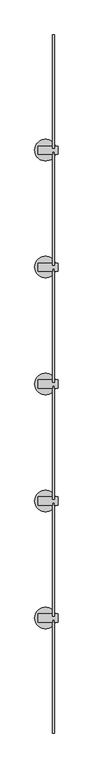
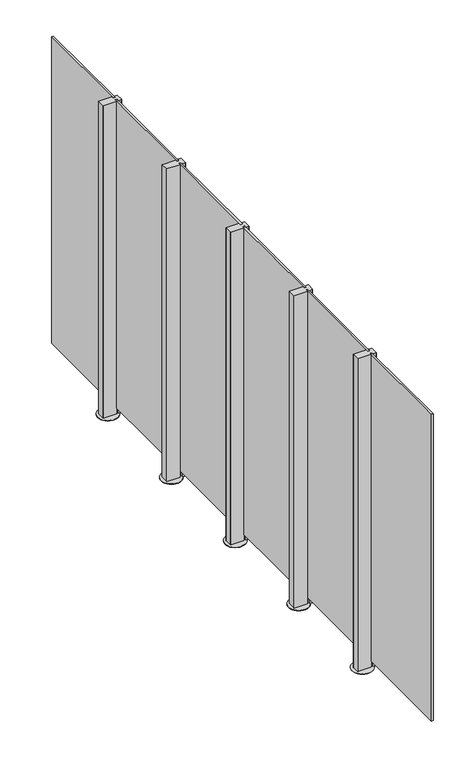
"""IFC4 building model written with IfcOpenShell, lengths in millimetres: railing geometry, TOP CONCRETE CORE_TOP MOUNT STRUC_GLASS_8'."""

from ifc_helpers import new_model, si_unit, point, frame, frame_2d, origin, origin_with_axes, place, context, project, spatial, polyline, circle_curve, trimmed, segment, composite_curve, outline, extrude, source, transform, mapped, element, save


def railing_ac6307d7(model_context):
    return source(origin(), model_context, "Body", "SweptSolid", [
        extrude(outline(polyline([(93873.3101265, -65347.9903244), (93873.3101265, -64560.5903244), (93886.0101265, -64560.5903244), (93886.0101265, -65347.9903244), (93873.3101265, -65347.9903244)])), frame((0.0, 0.0, 50.8), z_axis=(0.0, 0.0, 1.0), x_axis=(1.0, 0.0, 0.0)), (0.0, 0.0, 1.0), 2387.6),
        extrude(outline(composite_curve([segment(trimmed(circle_curve(frame_2d((93825.2862968, -65360.6903244)), 75.6503116), [point((93900.9366084, -65360.6903244))], [point((93749.6359852, -65360.6903244))], False, "CARTESIAN"), True, "CONTINUOUS"), segment(trimmed(circle_curve(frame_2d((93825.2862968, -65360.6903244)), 75.6503116), [point((93749.6359852, -65360.6903244))], [point((93900.9366084, -65360.6903244))], False, "CARTESIAN"), True, "CONTINUOUS")], self_intersect=False)), origin_with_axes(), (0.0, 0.0, 1.0), 3.0),
        extrude(outline(composite_curve([segment(polyline([(93873.3101265, -65332.9019775), (93873.3101265, -65347.9903244), (93886.0101265, -65347.9903244), (93886.0101265, -65332.9019775), (93910.9099695, -65332.9019775)]), True, "CONTINUOUS"), segment(trimmed(circle_curve(frame_2d((93910.9099695, -65333.4019775)), 0.5), [point((93910.9099695, -65332.9019775))], [point((93911.4099695, -65333.4019775))], False, "CARTESIAN"), True, "CONTINUOUS"), segment(polyline([(93911.4099695, -65333.4019775), (93911.4099695, -65389.5519775)]), True, "CONTINUOUS"), segment(trimmed(circle_curve(frame_2d((93910.9099695, -65389.5519775)), 0.5), [point((93911.4099695, -65389.5519775))], [point((93910.9099695, -65390.0519775))], False, "CARTESIAN"), True, "CONTINUOUS"), segment(polyline([(93910.9099695, -65390.0519775), (93886.0101265, -65390.0519775), (93886.0101265, -65373.3903244), (93873.3101265, -65373.3903244), (93873.3101265, -65390.0519775), (93774.2859695, -65390.0519775)]), True, "CONTINUOUS"), segment(trimmed(circle_curve(frame_2d((93774.2859695, -65389.5519775)), 0.5), [point((93774.2859695, -65390.0519775))], [point((93773.7859695, -65389.5519775))], False, "CARTESIAN"), True, "CONTINUOUS"), segment(polyline([(93773.7859695, -65389.5519775), (93773.7859695, -65333.4019775)]), True, "CONTINUOUS"), segment(trimmed(circle_curve(frame_2d((93774.2859695, -65333.4019775)), 0.5), [point((93773.7859695, -65333.4019775))], [point((93774.2859695, -65332.9019775))], False, "CARTESIAN"), True, "CONTINUOUS"), segment(polyline([(93774.2859695, -65332.9019775), (93873.3101265, -65332.9019775)]), True, "CONTINUOUS")], self_intersect=False)), origin_with_axes(), (0.0, 0.0, 1.0), 2438.4),
        extrude(outline(polyline([(93873.3101265, -66160.7903244), (93873.3101265, -65373.3903244), (93886.0101265, -65373.3903244), (93886.0101265, -66160.7903244), (93873.3101265, -66160.7903244)])), frame((0.0, 0.0, 50.8), z_axis=(0.0, 0.0, 1.0), x_axis=(1.0, 0.0, 0.0)), (0.0, 0.0, 1.0), 2387.6),
        extrude(outline(composite_curve([segment(trimmed(circle_curve(frame_2d((93825.2862968, -66173.4903244)), 75.6503116), [point((93900.9366084, -66173.4903244))], [point((93749.6359852, -66173.4903244))], False, "CARTESIAN"), True, "CONTINUOUS"), segment(trimmed(circle_curve(frame_2d((93825.2862968, -66173.4903244)), 75.6503116), [point((93749.6359852, -66173.4903244))], [point((93900.9366084, -66173.4903244))], False, "CARTESIAN"), True, "CONTINUOUS")], self_intersect=False)), origin_with_axes(), (0.0, 0.0, 1.0), 3.0),
        extrude(outline(composite_curve([segment(polyline([(93873.3101265, -66145.7019775), (93873.3101265, -66160.7903244), (93886.0101265, -66160.7903244), (93886.0101265, -66145.7019775), (93910.9099695, -66145.7019775)]), True, "CONTINUOUS"), segment(trimmed(circle_curve(frame_2d((93910.9099695, -66146.2019775)), 0.5), [point((93910.9099695, -66145.7019775))], [point((93911.4099695, -66146.2019775))], False, "CARTESIAN"), True, "CONTINUOUS"), segment(polyline([(93911.4099695, -66146.2019775), (93911.4099695, -66202.3519775)]), True, "CONTINUOUS"), segment(trimmed(circle_curve(frame_2d((93910.9099695, -66202.3519775)), 0.5), [point((93911.4099695, -66202.3519775))], [point((93910.9099695, -66202.8519775))], False, "CARTESIAN"), True, "CONTINUOUS"), segment(polyline([(93910.9099695, -66202.8519775), (93886.0101265, -66202.8519775), (93886.0101265, -66186.1903244), (93873.3101265, -66186.1903244), (93873.3101265, -66202.8519775), (93774.2859695, -66202.8519775)]), True, "CONTINUOUS"), segment(trimmed(circle_curve(frame_2d((93774.2859695, -66202.3519775)), 0.5), [point((93774.2859695, -66202.8519775))], [point((93773.7859695, -66202.3519775))], False, "CARTESIAN"), True, "CONTINUOUS"), segment(polyline([(93773.7859695, -66202.3519775), (93773.7859695, -66146.2019775)]), True, "CONTINUOUS"), segment(trimmed(circle_curve(frame_2d((93774.2859695, -66146.2019775)), 0.5), [point((93773.7859695, -66146.2019775))], [point((93774.2859695, -66145.7019775))], False, "CARTESIAN"), True, "CONTINUOUS"), segment(polyline([(93774.2859695, -66145.7019775), (93873.3101265, -66145.7019775)]), True, "CONTINUOUS")], self_intersect=False)), origin_with_axes(), (0.0, 0.0, 1.0), 2438.4),
        extrude(outline(polyline([(93873.3101265, -66973.5903244), (93873.3101265, -66186.1903244), (93886.0101265, -66186.1903244), (93886.0101265, -66973.5903244), (93873.3101265, -66973.5903244)])), frame((0.0, 0.0, 50.8), z_axis=(0.0, 0.0, 1.0), x_axis=(1.0, 0.0, 0.0)), (0.0, 0.0, 1.0), 2387.6),
        extrude(outline(composite_curve([segment(trimmed(circle_curve(frame_2d((93825.2862968, -66986.2903244)), 75.6503116), [point((93900.9366084, -66986.2903244))], [point((93749.6359852, -66986.2903244))], False, "CARTESIAN"), True, "CONTINUOUS"), segment(trimmed(circle_curve(frame_2d((93825.2862968, -66986.2903244)), 75.6503116), [point((93749.6359852, -66986.2903244))], [point((93900.9366084, -66986.2903244))], False, "CARTESIAN"), True, "CONTINUOUS")], self_intersect=False)), origin_with_axes(), (0.0, 0.0, 1.0), 3.0),
        extrude(outline(composite_curve([segment(polyline([(93873.3101265, -66958.5019775), (93873.3101265, -66973.5903244), (93886.0101265, -66973.5903244), (93886.0101265, -66958.5019775), (93910.9099695, -66958.5019775)]), True, "CONTINUOUS"), segment(trimmed(circle_curve(frame_2d((93910.9099695, -66959.0019775)), 0.5), [point((93910.9099695, -66958.5019775))], [point((93911.4099695, -66959.0019775))], False, "CARTESIAN"), True, "CONTINUOUS"), segment(polyline([(93911.4099695, -66959.0019775), (93911.4099695, -67015.1519775)]), True, "CONTINUOUS"), segment(trimmed(circle_curve(frame_2d((93910.9099695, -67015.1519775)), 0.5), [point((93911.4099695, -67015.1519775))], [point((93910.9099695, -67015.6519775))], False, "CARTESIAN"), True, "CONTINUOUS"), segment(polyline([(93910.9099695, -67015.6519775), (93886.0101265, -67015.6519775), (93886.0101265, -66998.9903244), (93873.3101265, -66998.9903244), (93873.3101265, -67015.6519775), (93774.2859695, -67015.6519775)]), True, "CONTINUOUS"), segment(trimmed(circle_curve(frame_2d((93774.2859695, -67015.1519775)), 0.5), [point((93774.2859695, -67015.6519775))], [point((93773.7859695, -67015.1519775))], False, "CARTESIAN"), True, "CONTINUOUS"), segment(polyline([(93773.7859695, -67015.1519775), (93773.7859695, -66959.0019775)]), True, "CONTINUOUS"), segment(trimmed(circle_curve(frame_2d((93774.2859695, -66959.0019775)), 0.5), [point((93773.7859695, -66959.0019775))], [point((93774.2859695, -66958.5019775))], False, "CARTESIAN"), True, "CONTINUOUS"), segment(polyline([(93774.2859695, -66958.5019775), (93873.3101265, -66958.5019775)]), True, "CONTINUOUS")], self_intersect=False)), origin_with_axes(), (0.0, 0.0, 1.0), 2438.4),
        extrude(outline(polyline([(93873.3101265, -67786.3903244), (93873.3101265, -66998.9903244), (93886.0101265, -66998.9903244), (93886.0101265, -67786.3903244), (93873.3101265, -67786.3903244)])), frame((0.0, 0.0, 50.8), z_axis=(0.0, 0.0, 1.0), x_axis=(1.0, 0.0, 0.0)), (0.0, 0.0, 1.0), 2387.6),
        extrude(outline(composite_curve([segment(trimmed(circle_curve(frame_2d((93825.2862968, -67799.0903244)), 75.6503116), [point((93900.9366084, -67799.0903244))], [point((93749.6359852, -67799.0903244))], False, "CARTESIAN"), True, "CONTINUOUS"), segment(trimmed(circle_curve(frame_2d((93825.2862968, -67799.0903244)), 75.6503116), [point((93749.6359852, -67799.0903244))], [point((93900.9366084, -67799.0903244))], False, "CARTESIAN"), True, "CONTINUOUS")], self_intersect=False)), origin_with_axes(), (0.0, 0.0, 1.0), 3.0),
        extrude(outline(composite_curve([segment(polyline([(93873.3101265, -67771.3019775), (93873.3101265, -67786.3903244), (93886.0101265, -67786.3903244), (93886.0101265, -67771.3019775), (93910.9099695, -67771.3019775)]), True, "CONTINUOUS"), segment(trimmed(circle_curve(frame_2d((93910.9099695, -67771.8019775)), 0.5), [point((93910.9099695, -67771.3019775))], [point((93911.4099695, -67771.8019775))], False, "CARTESIAN"), True, "CONTINUOUS"), segment(polyline([(93911.4099695, -67771.8019775), (93911.4099695, -67827.9519775)]), True, "CONTINUOUS"), segment(trimmed(circle_curve(frame_2d((93910.9099695, -67827.9519775)), 0.5), [point((93911.4099695, -67827.9519775))], [point((93910.9099695, -67828.4519775))], False, "CARTESIAN"), True, "CONTINUOUS"), segment(polyline([(93910.9099695, -67828.4519775), (93886.0101265, -67828.4519775), (93886.0101265, -67811.7903244), (93873.3101265, -67811.7903244), (93873.3101265, -67828.4519775), (93774.2859695, -67828.4519775)]), True, "CONTINUOUS"), segment(trimmed(circle_curve(frame_2d((93774.2859695, -67827.9519775)), 0.5), [point((93774.2859695, -67828.4519775))], [point((93773.7859695, -67827.9519775))], False, "CARTESIAN"), True, "CONTINUOUS"), segment(polyline([(93773.7859695, -67827.9519775), (93773.7859695, -67771.8019775)]), True, "CONTINUOUS"), segment(trimmed(circle_curve(frame_2d((93774.2859695, -67771.8019775)), 0.5), [point((93773.7859695, -67771.8019775))], [point((93774.2859695, -67771.3019775))], False, "CARTESIAN"), True, "CONTINUOUS"), segment(polyline([(93774.2859695, -67771.3019775), (93873.3101265, -67771.3019775)]), True, "CONTINUOUS")], self_intersect=False)), origin_with_axes(), (0.0, 0.0, 1.0), 2438.4),
        extrude(outline(polyline([(93873.3101265, -68599.1903244), (93873.3101265, -67811.7903244), (93886.0101265, -67811.7903244), (93886.0101265, -68599.1903244), (93873.3101265, -68599.1903244)])), frame((0.0, 0.0, 50.8), z_axis=(0.0, 0.0, 1.0), x_axis=(1.0, 0.0, 0.0)), (0.0, 0.0, 1.0), 2387.6),
        extrude(outline(composite_curve([segment(trimmed(circle_curve(frame_2d((93825.2862968, -68611.8903244)), 75.6503116), [point((93900.9366084, -68611.8903244))], [point((93749.6359852, -68611.8903244))], False, "CARTESIAN"), True, "CONTINUOUS"), segment(trimmed(circle_curve(frame_2d((93825.2862968, -68611.8903244)), 75.6503116), [point((93749.6359852, -68611.8903244))], [point((93900.9366084, -68611.8903244))], False, "CARTESIAN"), True, "CONTINUOUS")], self_intersect=False)), origin_with_axes(), (0.0, 0.0, 1.0), 3.0),
        extrude(outline(composite_curve([segment(polyline([(93873.3101265, -68584.1019775), (93873.3101265, -68599.1903244), (93886.0101265, -68599.1903244), (93886.0101265, -68584.1019775), (93910.9099695, -68584.1019775)]), True, "CONTINUOUS"), segment(trimmed(circle_curve(frame_2d((93910.9099695, -68584.6019775)), 0.5), [point((93910.9099695, -68584.1019775))], [point((93911.4099695, -68584.6019775))], False, "CARTESIAN"), True, "CONTINUOUS"), segment(polyline([(93911.4099695, -68584.6019775), (93911.4099695, -68640.7519775)]), True, "CONTINUOUS"), segment(trimmed(circle_curve(frame_2d((93910.9099695, -68640.7519775)), 0.5), [point((93911.4099695, -68640.7519775))], [point((93910.9099695, -68641.2519775))], False, "CARTESIAN"), True, "CONTINUOUS"), segment(polyline([(93910.9099695, -68641.2519775), (93886.0101265, -68641.2519775), (93886.0101265, -68624.5903244), (93873.3101265, -68624.5903244), (93873.3101265, -68641.2519775), (93774.2859695, -68641.2519775)]), True, "CONTINUOUS"), segment(trimmed(circle_curve(frame_2d((93774.2859695, -68640.7519775)), 0.5), [point((93774.2859695, -68641.2519775))], [point((93773.7859695, -68640.7519775))], False, "CARTESIAN"), True, "CONTINUOUS"), segment(polyline([(93773.7859695, -68640.7519775), (93773.7859695, -68584.6019775)]), True, "CONTINUOUS"), segment(trimmed(circle_curve(frame_2d((93774.2859695, -68584.6019775)), 0.5), [point((93773.7859695, -68584.6019775))], [point((93774.2859695, -68584.1019775))], False, "CARTESIAN"), True, "CONTINUOUS"), segment(polyline([(93774.2859695, -68584.1019775), (93873.3101265, -68584.1019775)]), True, "CONTINUOUS")], self_intersect=False)), origin_with_axes(), (0.0, 0.0, 1.0), 2438.4),
        extrude(outline(polyline([(93873.3101265, -69411.9903244), (93873.3101265, -68624.5903244), (93886.0101265, -68624.5903244), (93886.0101265, -69411.9903244), (93873.3101265, -69411.9903244)])), frame((0.0, 0.0, 50.8), z_axis=(0.0, 0.0, 1.0), x_axis=(1.0, 0.0, 0.0)), (0.0, 0.0, 1.0), 2387.6),
    ])


if __name__ == "__main__":
    model = new_model("IFC4")
    model_context = context("Model", 3, world=origin())
    ifc_project = project(units=[si_unit("LENGTHUNIT", "METRE", prefix="MILLI")], contexts=[model_context])
    site = spatial("IfcSite", under=ifc_project)
    building = spatial("IfcBuilding", under=site)
    placement = place(None, origin())
    railing_shape = railing_ac6307d7(model_context)
    element("IfcRailing", 1, ObjectType="TOP CONCRETE CORE_TOP MOUNT STRUC_GLASS_8'", at=placement, inside=building, context=model_context, shape_type="MappedRepresentation", body=[
        mapped(railing_shape, transform((0.0, 0.0, 0.0), x_axis=(1.0, 0.0, 0.0), y_axis=(0.0, 1.0, 0.0), z_axis=(0.0, 0.0, 1.0))),
    ])
    save(model, "model.ifc")
